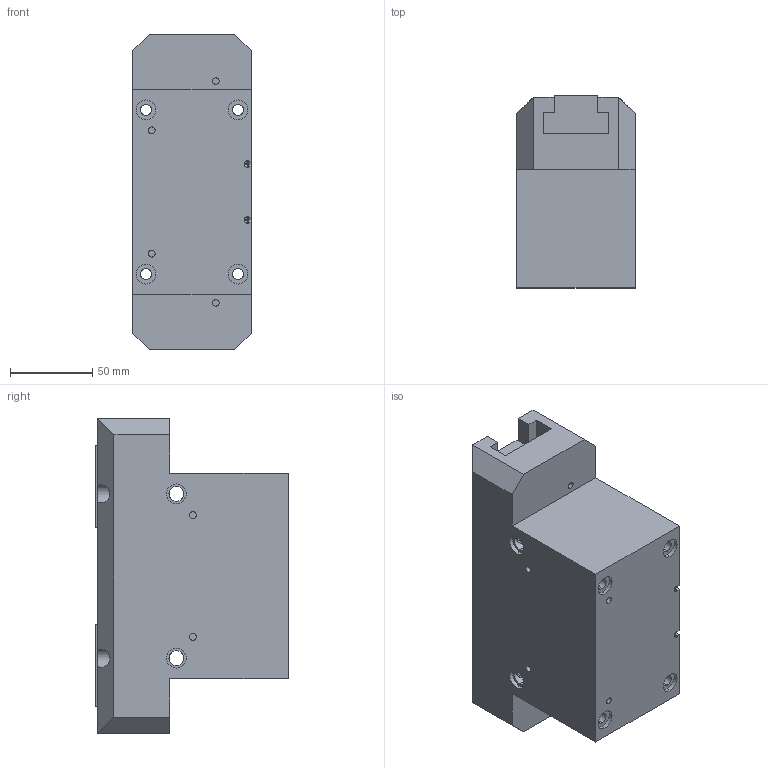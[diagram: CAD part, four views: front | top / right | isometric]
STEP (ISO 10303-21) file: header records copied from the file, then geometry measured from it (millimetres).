
FILE_DESCRIPTION (( 'STEP AP203' ), '1' );
FILE_NAME ('dh6632nc.STEP', '2011-08-03T09:15:45', ( 'Stefano' ), ( 'Gimatic' ), 'SwSTEP 2.0', 'SolidWorks 2010', '' );
FILE_SCHEMA (( 'CONFIG_CONTROL_DESIGN' ));
Length unit declared in the file: millimetre
Products named in the file (3): dh66_corpoprolunga; dh6632nc; dh66_griffa
Assembly tree (3 placements, depth 2):
  dh6632nc
    dh66_corpoprolunga
    dh66_griffa  x2
Bounding box: 72 x 117 x 192 mm (x, y, z)
Volume: 1145670.5 mm3; surface area: 131549.5 mm2
Topology: 3 solids, 3 shells, 188 faces, 464 edges, 300 vertices
Faces by surface type: plane 94, cylinder 90, sphere 4
Entity records: 5735 total; most frequent: CARTESIAN_POINT 1388, DIRECTION 862, ORIENTED_EDGE 812, EDGE_CURVE 406, AXIS2_PLACEMENT_3D 314, VERTEX_POINT 264, LINE 234, VECTOR 234
